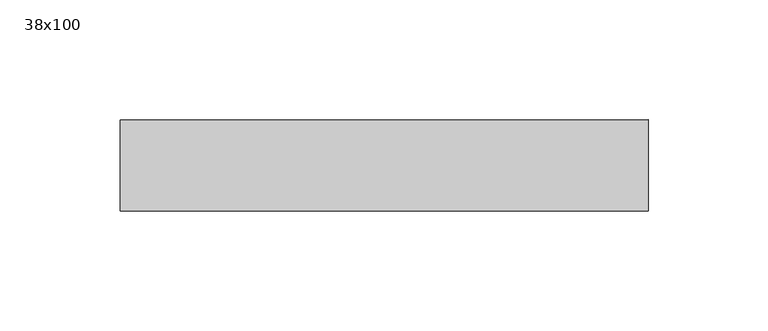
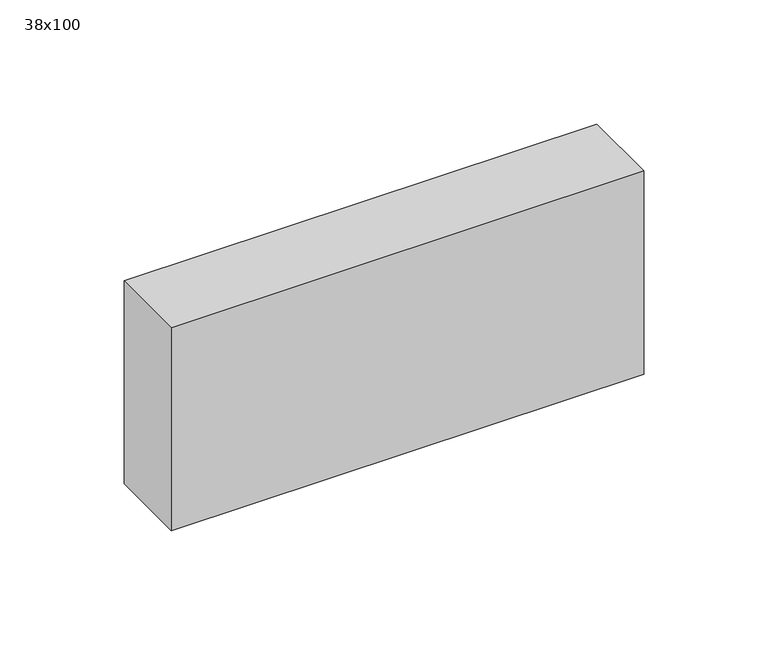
"""IFC4 building model written with IfcOpenShell, lengths in millimetres: beam geometry, Poutre - Bois de construction de dimensions courantes : 38x100."""

from ifc_helpers import new_model, si_unit, frame, origin, place, context, project, spatial, polyline, outline, extrude, source, transform, mapped, element, save


def beam_38x100_124c990c(model_context):
    return source(origin(), model_context, "Body", "SweptSolid", [
        extrude(outline(polyline([(103.5, 19.05), (103.5, -19.05), (-116.5, -19.05), (-116.5, 19.05), (103.5, 19.05)])), frame((0.0, 0.0, -50.0), z_axis=(0.0, 0.0, 1.0), x_axis=(1.0, 0.0, 0.0)), (0.0, 0.0, 1.0), 100.0),
    ])


if __name__ == "__main__":
    model = new_model("IFC4")
    model_context = context("Model", 3, world=origin())
    ifc_project = project(units=[si_unit("LENGTHUNIT", "METRE", prefix="MILLI")], contexts=[model_context])
    site = spatial("IfcSite", under=ifc_project)
    building = spatial("IfcBuilding", under=site)
    placement = place(None, origin())
    beam_38x100_shape = beam_38x100_124c990c(model_context)
    element("IfcBeam", 1, ObjectType="Poutre - Bois de construction de dimensions courantes : 38x100", at=placement, inside=building, context=model_context, shape_type="MappedRepresentation", body=[
        mapped(beam_38x100_shape, transform((0.0, 0.0, 0.0), x_axis=(1.0, 0.0, 0.0), y_axis=(0.0, 1.0, 0.0), z_axis=(0.0, 0.0, 1.0))),
    ])
    save(model, "model.ifc")
